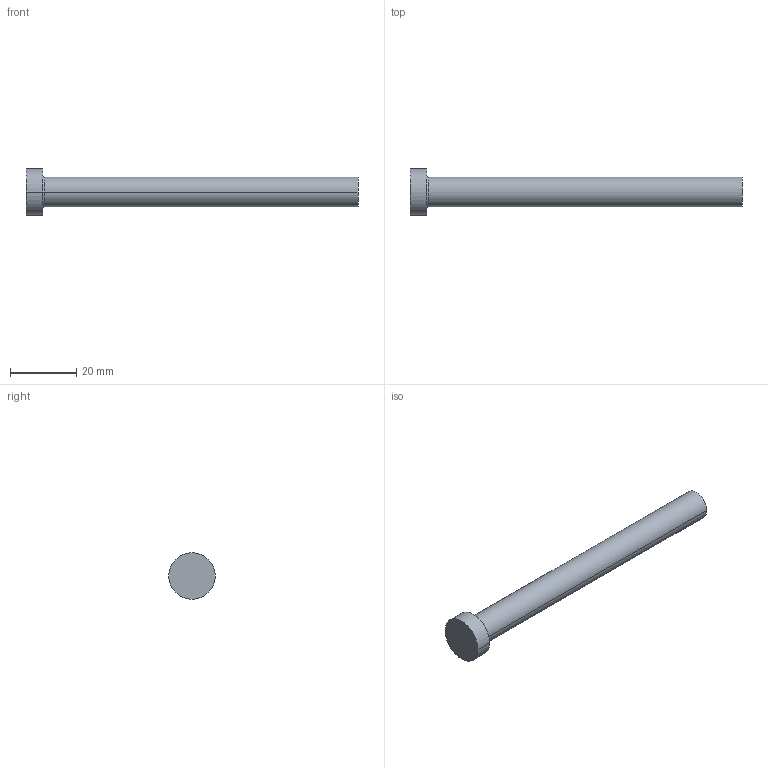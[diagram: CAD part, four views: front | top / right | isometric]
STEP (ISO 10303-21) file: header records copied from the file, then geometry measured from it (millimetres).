
FILE_DESCRIPTION (( 'STEP AP214' ), '1' );
FILE_NAME ('A-9x100.STEP', '2020-05-29T15:56:03', ( 'August' ), ( '' ), 'SwSTEP 2.0', 'SolidWorks 2018', '' );
FILE_SCHEMA (( 'AUTOMOTIVE_DESIGN' ));
Length unit declared in the file: millimetre
Products named in the file (1): A-9x100
Bounding box: 100 x 14 x 14 mm (x, y, z)
Volume: 6814.9 mm3; surface area: 3207.9 mm2
Topology: 1 solids, 1 shells, 9 faces, 16 edges, 10 vertices
Faces by surface type: cylinder 4, plane 3, torus 2
Entity records: 260 total; most frequent: DIRECTION 48, CARTESIAN_POINT 36, ORIENTED_EDGE 32, AXIS2_PLACEMENT_3D 22, EDGE_CURVE 16, CIRCLE 12, EDGE_LOOP 10, VERTEX_POINT 10
